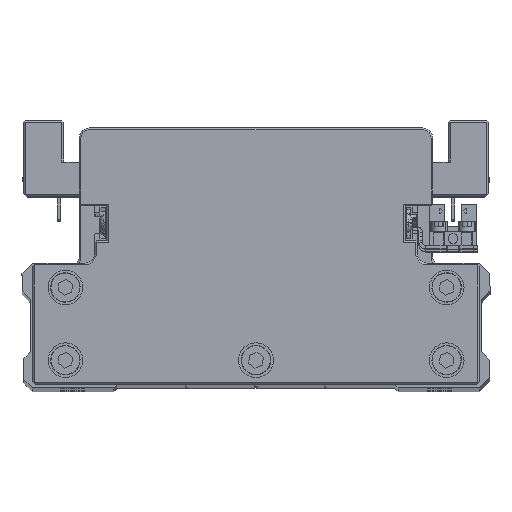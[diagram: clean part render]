
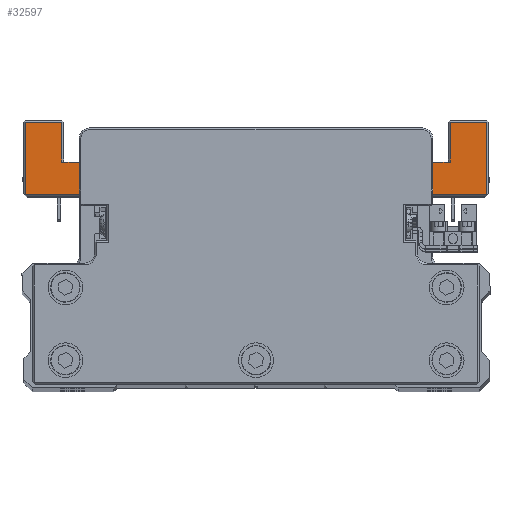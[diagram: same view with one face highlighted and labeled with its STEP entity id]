
A CAD part, top view. The second image highlights one B-rep face of the part: STEP entity #32597.
In plain terms, the highlighted planar face has unit normal (0, 0, 1) as drawn and (0, -1, 0) by its records, which use the part's own axes.
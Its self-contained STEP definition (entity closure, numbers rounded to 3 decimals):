
#541 = ORIENTED_EDGE ( 'NONE', *, *, #16440, .T. ) ;
#707 = CARTESIAN_POINT ( 'NONE',  ( 56., -45., -64.5 ) ) ;
#747 = CARTESIAN_POINT ( 'NONE',  ( 67., -45., -64. ) ) ;
#751 = ORIENTED_EDGE ( 'NONE', *, *, #10526, .T. ) ;
#800 = CARTESIAN_POINT ( 'NONE',  ( -66.5, -45., -43. ) ) ;
#908 = VECTOR ( 'NONE', #33755, 1000. ) ;
#951 = PLANE ( 'NONE',  #17623 ) ;
#1251 = VERTEX_POINT ( 'NONE', #15451 ) ;
#1796 = VERTEX_POINT ( 'NONE', #22193 ) ;
#2000 = VECTOR ( 'NONE', #17028, 1000. ) ;
#2047 = EDGE_CURVE ( 'NONE', #9668, #2277, #8760, .T. ) ;
#2277 = VERTEX_POINT ( 'NONE', #7530 ) ;
#2343 = DIRECTION ( 'NONE',  ( -1., 0., 0. ) ) ;
#2637 = LINE ( 'NONE', #14883, #11330 ) ;
#2763 = CARTESIAN_POINT ( 'NONE',  ( -66.5, -45., -64.5 ) ) ;
#2923 = VECTOR ( 'NONE', #2343, 1000. ) ;
#3013 = CARTESIAN_POINT ( 'NONE',  ( 46., -45., -52.5 ) ) ;
#3929 = DIRECTION ( 'NONE',  ( 0., 0., -1. ) ) ;
#4007 = CARTESIAN_POINT ( 'NONE',  ( 66.5, -45., -64. ) ) ;
#4758 = DIRECTION ( 'NONE',  ( 0., 0., 1. ) ) ;
#4759 = CARTESIAN_POINT ( 'NONE',  ( -66.5, -45., -64. ) ) ;
#4824 = CARTESIAN_POINT ( 'NONE',  ( -55.5, -45., -52.5 ) ) ;
#4994 = VECTOR ( 'NONE', #13008, 1000. ) ;
#5177 = VECTOR ( 'NONE', #32214, 1000. ) ;
#5220 = VERTEX_POINT ( 'NONE', #19901 ) ;
#5319 = EDGE_CURVE ( 'NONE', #5220, #34874, #20478, .T. ) ;
#5615 = VERTEX_POINT ( 'NONE', #29475 ) ;
#6452 = LINE ( 'NONE', #18654, #34993 ) ;
#6610 = CARTESIAN_POINT ( 'NONE',  ( 66.5, -45., -43.5 ) ) ;
#7492 = ORIENTED_EDGE ( 'NONE', *, *, #13166, .F. ) ;
#7522 = CIRCLE ( 'NONE', #12634, 1.5 ) ;
#7530 = CARTESIAN_POINT ( 'NONE',  ( 46., -45., -54. ) ) ;
#7766 = ORIENTED_EDGE ( 'NONE', *, *, #39278, .T. ) ;
#7790 = LINE ( 'NONE', #19985, #5177 ) ;
#7826 = CARTESIAN_POINT ( 'NONE',  ( 56., -45., -64. ) ) ;
#8202 = ORIENTED_EDGE ( 'NONE', *, *, #25736, .T. ) ;
#8316 = DIRECTION ( 'NONE',  ( -1., 0., 0. ) ) ;
#8760 = LINE ( 'NONE', #20963, #33267 ) ;
#9054 = LINE ( 'NONE', #21256, #21594 ) ;
#9312 = LINE ( 'NONE', #21530, #908 ) ;
#9471 = VERTEX_POINT ( 'NONE', #34118 ) ;
#9538 = ORIENTED_EDGE ( 'NONE', *, *, #25247, .T. ) ;
#9668 = VERTEX_POINT ( 'NONE', #26063 ) ;
#9845 = EDGE_CURVE ( 'NONE', #35288, #1796, #9054, .T. ) ;
#9953 = VERTEX_POINT ( 'NONE', #4007 ) ;
#10142 = VECTOR ( 'NONE', #8316, 1000. ) ;
#10526 = EDGE_CURVE ( 'NONE', #5615, #5220, #23513, .T. ) ;
#11330 = VECTOR ( 'NONE', #27072, 1000. ) ;
#12237 = ORIENTED_EDGE ( 'NONE', *, *, #38628, .T. ) ;
#12380 = LINE ( 'NONE', #24580, #33656 ) ;
#12634 = AXIS2_PLACEMENT_3D ( 'NONE', #19152, #31377, #3929 ) ;
#12965 = DIRECTION ( 'NONE',  ( 0., 0., -1. ) ) ;
#13008 = DIRECTION ( 'NONE',  ( 1., 0., 0. ) ) ;
#13166 = EDGE_CURVE ( 'NONE', #9668, #26045, #7790, .T. ) ;
#13213 = CARTESIAN_POINT ( 'NONE',  ( 0., -45., 0. ) ) ;
#13317 = VECTOR ( 'NONE', #18819, 1000. ) ;
#13584 = CARTESIAN_POINT ( 'NONE',  ( -40.066, -45., -43. ) ) ;
#13892 = VERTEX_POINT ( 'NONE', #800 ) ;
#14053 = EDGE_CURVE ( 'NONE', #26045, #19487, #32264, .T. ) ;
#14883 = CARTESIAN_POINT ( 'NONE',  ( 55.5, -45., -52.5 ) ) ;
#14902 = CARTESIAN_POINT ( 'NONE',  ( 40.066, -45., -41.5 ) ) ;
#15007 = DIRECTION ( 'NONE',  ( 0., 0., -1. ) ) ;
#15258 = DIRECTION ( 'NONE',  ( 0., 0., -1. ) ) ;
#15451 = CARTESIAN_POINT ( 'NONE',  ( -56., -45., -64. ) ) ;
#15517 = VERTEX_POINT ( 'NONE', #19996 ) ;
#16440 = EDGE_CURVE ( 'NONE', #9953, #5615, #34061, .T. ) ;
#17028 = DIRECTION ( 'NONE',  ( -1., 0., 0. ) ) ;
#17573 = LINE ( 'NONE', #29807, #2923 ) ;
#17623 = AXIS2_PLACEMENT_3D ( 'NONE', #13213, #25408, #37655 ) ;
#18267 = ORIENTED_EDGE ( 'NONE', *, *, #38233, .T. ) ;
#18275 = VECTOR ( 'NONE', #4758, 1000. ) ;
#18654 = CARTESIAN_POINT ( 'NONE',  ( -55.5, -45., -64. ) ) ;
#18819 = DIRECTION ( 'NONE',  ( 0., 0., 1. ) ) ;
#19152 = CARTESIAN_POINT ( 'NONE',  ( -40.066, -45., -41.5 ) ) ;
#19487 = VERTEX_POINT ( 'NONE', #36490 ) ;
#19901 = CARTESIAN_POINT ( 'NONE',  ( 40.066, -45., -43. ) ) ;
#19970 = LINE ( 'NONE', #32201, #18275 ) ;
#19985 = CARTESIAN_POINT ( 'NONE',  ( -46., -45., -52.5 ) ) ;
#19996 = CARTESIAN_POINT ( 'NONE',  ( 56., -45., -52.5 ) ) ;
#20478 = CIRCLE ( 'NONE', #25588, 1.5 ) ;
#20963 = CARTESIAN_POINT ( 'NONE',  ( 46., -45., -54. ) ) ;
#21203 = ORIENTED_EDGE ( 'NONE', *, *, #14053, .F. ) ;
#21256 = CARTESIAN_POINT ( 'NONE',  ( -77.786, -45., -42.5 ) ) ;
#21530 = CARTESIAN_POINT ( 'NONE',  ( -39.868, -45., -42.987 ) ) ;
#21594 = VECTOR ( 'NONE', #33484, 1000. ) ;
#22193 = CARTESIAN_POINT ( 'NONE',  ( -36.217, -45., -42.5 ) ) ;
#23464 = CARTESIAN_POINT ( 'NONE',  ( 36.217, -45., -42.5 ) ) ;
#23513 = LINE ( 'NONE', #35754, #10142 ) ;
#23719 = ORIENTED_EDGE ( 'NONE', *, *, #32889, .T. ) ;
#23787 = ORIENTED_EDGE ( 'NONE', *, *, #35328, .F. ) ;
#24158 = ORIENTED_EDGE ( 'NONE', *, *, #9845, .T. ) ;
#24580 = CARTESIAN_POINT ( 'NONE',  ( 25.802, -45., -41.111 ) ) ;
#25247 = EDGE_CURVE ( 'NONE', #28374, #9953, #28233, .T. ) ;
#25408 = DIRECTION ( 'NONE',  ( 0., -1., 0. ) ) ;
#25588 = AXIS2_PLACEMENT_3D ( 'NONE', #14902, #27094, #39320 ) ;
#25736 = EDGE_CURVE ( 'NONE', #15517, #28374, #28188, .T. ) ;
#26045 = VERTEX_POINT ( 'NONE', #36577 ) ;
#26063 = CARTESIAN_POINT ( 'NONE',  ( -46., -45., -54. ) ) ;
#26698 = CARTESIAN_POINT ( 'NONE',  ( 39.868, -45., -42.987 ) ) ;
#27072 = DIRECTION ( 'NONE',  ( -1., 0., 0. ) ) ;
#27094 = DIRECTION ( 'NONE',  ( 0., 1., 0. ) ) ;
#27784 = VECTOR ( 'NONE', #15258, 1000. ) ;
#27879 = VERTEX_POINT ( 'NONE', #34718 ) ;
#28081 = ORIENTED_EDGE ( 'NONE', *, *, #32753, .T. ) ;
#28188 = LINE ( 'NONE', #707, #34459 ) ;
#28233 = LINE ( 'NONE', #747, #4994 ) ;
#28374 = VERTEX_POINT ( 'NONE', #7826 ) ;
#28424 = FACE_OUTER_BOUND ( 'NONE', #32341, .T. ) ;
#28909 = VERTEX_POINT ( 'NONE', #4759 ) ;
#29475 = CARTESIAN_POINT ( 'NONE',  ( 66.5, -45., -43. ) ) ;
#29807 = CARTESIAN_POINT ( 'NONE',  ( -66., -45., -43. ) ) ;
#30228 = LINE ( 'NONE', #2763, #36887 ) ;
#30459 = LINE ( 'NONE', #3013, #27784 ) ;
#30868 = DIRECTION ( 'NONE',  ( 1., 0., 0. ) ) ;
#31377 = DIRECTION ( 'NONE',  ( 0., 1., 0. ) ) ;
#31449 = EDGE_CURVE ( 'NONE', #1796, #9471, #9312, .T. ) ;
#32201 = CARTESIAN_POINT ( 'NONE',  ( -56., -45., -52.5 ) ) ;
#32214 = DIRECTION ( 'NONE',  ( 0., 0., 1. ) ) ;
#32264 = LINE ( 'NONE', #4824, #2000 ) ;
#32341 = EDGE_LOOP ( 'NONE', ( #24158, #36452, #12237, #28081, #7766, #18267, #35507, #21203, #7492, #34475, #23787, #36371, #8202, #9538, #541, #751, #34872, #23719 ) ) ;
#32597 = ADVANCED_FACE ( 'NONE', ( #28424 ), #951, .T. ) ;
#32753 = EDGE_CURVE ( 'NONE', #35933, #13892, #17573, .T. ) ;
#32889 = EDGE_CURVE ( 'NONE', #34874, #35288, #12380, .T. ) ;
#33203 = DIRECTION ( 'NONE',  ( 1., 0., 0. ) ) ;
#33267 = VECTOR ( 'NONE', #33203, 1000. ) ;
#33484 = DIRECTION ( 'NONE',  ( -1., 0., 0. ) ) ;
#33656 = VECTOR ( 'NONE', #36817, 1000. ) ;
#33755 = DIRECTION ( 'NONE',  ( -0.991, 0., -0.132 ) ) ;
#34061 = LINE ( 'NONE', #6610, #13317 ) ;
#34118 = CARTESIAN_POINT ( 'NONE',  ( -39.868, -45., -42.987 ) ) ;
#34459 = VECTOR ( 'NONE', #12965, 1000. ) ;
#34475 = ORIENTED_EDGE ( 'NONE', *, *, #2047, .T. ) ;
#34718 = CARTESIAN_POINT ( 'NONE',  ( 46., -45., -52.5 ) ) ;
#34872 = ORIENTED_EDGE ( 'NONE', *, *, #5319, .T. ) ;
#34874 = VERTEX_POINT ( 'NONE', #26698 ) ;
#34993 = VECTOR ( 'NONE', #30868, 1000. ) ;
#35288 = VERTEX_POINT ( 'NONE', #23464 ) ;
#35328 = EDGE_CURVE ( 'NONE', #27879, #2277, #30459, .T. ) ;
#35507 = ORIENTED_EDGE ( 'NONE', *, *, #37083, .T. ) ;
#35754 = CARTESIAN_POINT ( 'NONE',  ( 40.066, -45., -43. ) ) ;
#35933 = VERTEX_POINT ( 'NONE', #13584 ) ;
#36371 = ORIENTED_EDGE ( 'NONE', *, *, #38061, .F. ) ;
#36452 = ORIENTED_EDGE ( 'NONE', *, *, #31449, .T. ) ;
#36490 = CARTESIAN_POINT ( 'NONE',  ( -56., -45., -52.5 ) ) ;
#36577 = CARTESIAN_POINT ( 'NONE',  ( -46., -45., -52.5 ) ) ;
#36817 = DIRECTION ( 'NONE',  ( -0.991, 0., 0.132 ) ) ;
#36887 = VECTOR ( 'NONE', #15007, 1000. ) ;
#37083 = EDGE_CURVE ( 'NONE', #1251, #19487, #19970, .T. ) ;
#37655 = DIRECTION ( 'NONE',  ( 0., 0., -1. ) ) ;
#38061 = EDGE_CURVE ( 'NONE', #15517, #27879, #2637, .T. ) ;
#38233 = EDGE_CURVE ( 'NONE', #28909, #1251, #6452, .T. ) ;
#38628 = EDGE_CURVE ( 'NONE', #9471, #35933, #7522, .T. ) ;
#39278 = EDGE_CURVE ( 'NONE', #13892, #28909, #30228, .T. ) ;
#39320 = DIRECTION ( 'NONE',  ( 0., 0., -1. ) ) ;
